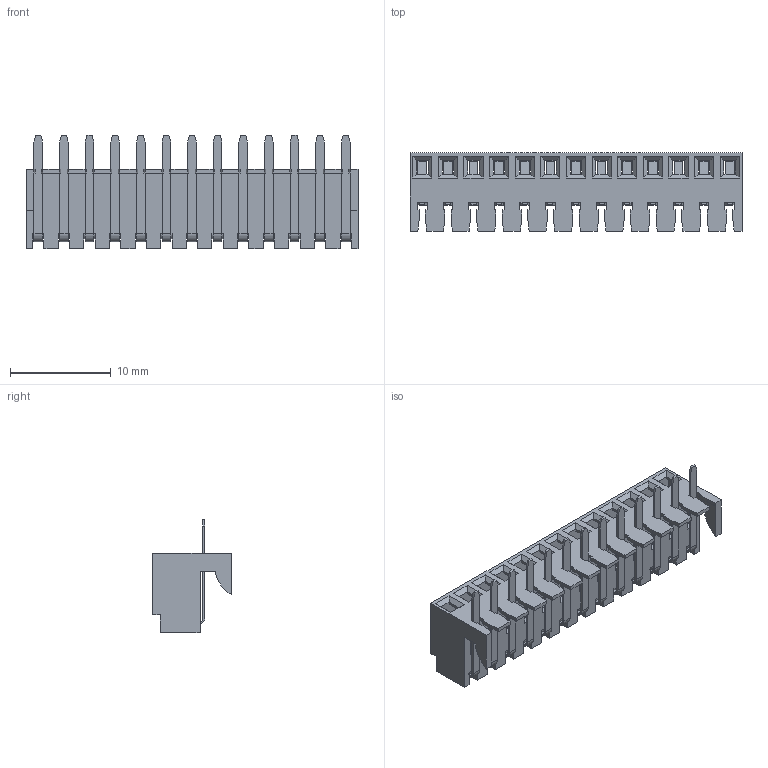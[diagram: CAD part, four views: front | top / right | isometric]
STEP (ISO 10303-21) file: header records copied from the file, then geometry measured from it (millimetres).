
FILE_DESCRIPTION((''),'2;1');
FILE_NAME('022173132','2014-10-13T',('me'),(''),'PRO/ENGINEER BY PARAMETRIC TECHNOLOGY CORPORATION, 2011490','PRO/ENGINEER BY PARAMETRIC TECHNOLOGY CORPORATION, 2011490','');
FILE_SCHEMA(('CONFIG_CONTROL_DESIGN'));
Length unit declared in the file: inch
Products named in the file (1): 022173132
Bounding box: 32.92 x 7.8 x 11.23 mm (x, y, z)
Volume: 533.8 mm3; surface area: 2188.8 mm2
Topology: 1 solids, 1 shells, 732 faces, 2119 edges, 1402 vertices
Faces by surface type: plane 611, cylinder 121
Entity records: 23857 total; most frequent: CARTESIAN_POINT 4228, ORIENTED_EDGE 4186, DIRECTION 3879, EDGE_CURVE 2093, VECTOR 1825, LINE 1825, VERTEX_POINT 1376, AXIS2_PLACEMENT_3D 1027
